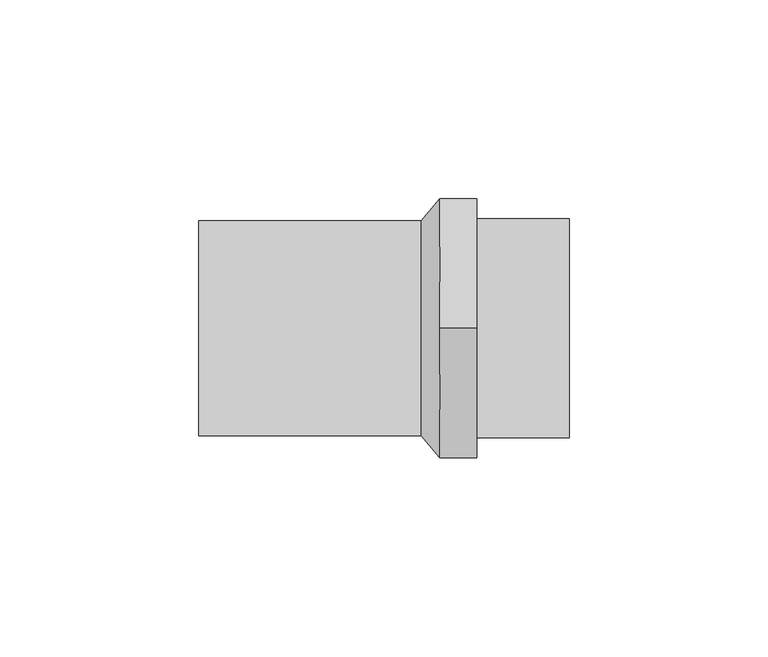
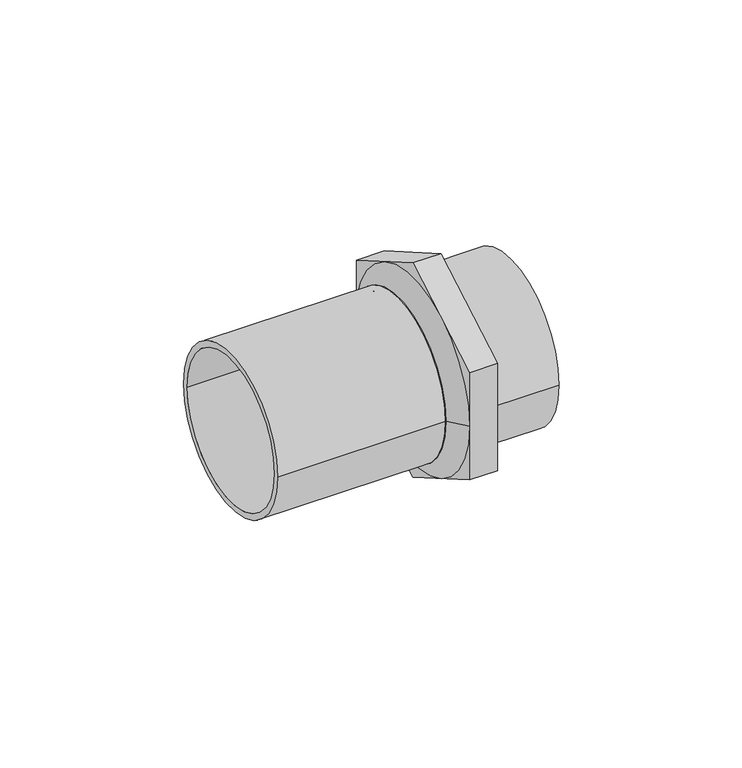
"""IFC4 building model written with IfcOpenShell, lengths in millimetres: pipe fitting geometry, VALTEC_VTi.906.I_Вставка с наружной резьбой нержавеющая сталь : VTi.906.I."""

from ifc_helpers import new_model, si_unit, point, frame, origin, origin_2d, place, context, project, spatial, polyline, circle_curve, trimmed, segment, composite_curve, outline, extrude, source, transform, mapped, element, save
from ifc_brep_helpers import plane_surface, revolved_surface, advanced_brep


def pipe_fitting_f4f82637(model_context):
    return source(origin(), model_context, "Body", "SolidModel", [
        extrude(outline(composite_curve([segment(trimmed(circle_curve(origin_2d(), 27.5), [point((-27.5, 0.0))], [point((27.5, 0.0))], False, "CARTESIAN"), True, "CONTINUOUS"), segment(trimmed(circle_curve(origin_2d(), 27.5), [point((27.5, 0.0))], [point((-27.5, 0.0))], False, "CARTESIAN"), True, "CONTINUOUS")], self_intersect=False), holes=[composite_curve([segment(trimmed(circle_curve(origin_2d(), 25.0), [point((-25.0, 0.0))], [point((25.0, 0.0))], True, "CARTESIAN"), True, "CONTINUOUS"), segment(trimmed(circle_curve(origin_2d(), 25.0), [point((25.0, 0.0))], [point((-25.0, 0.0))], True, "CARTESIAN"), True, "CONTINUOUS")], self_intersect=False)]), frame((69.75, 0.0, 0.0), z_axis=(1.0, 0.0, 0.0), x_axis=(0.0, 1.0, 0.0)), (0.0, 0.0, 1.0), 23.25),
        advanced_brep(
        [(60.45, -32.5, 0.0), (60.45, 32.5, 0.0), (55.8, -27.0, 0.0), (55.8, 27.0, 0.0)],
        [
            (0, 1, circle_curve(frame((60.45, 0.0, 0.0), z_axis=(1.0, 0.0, 0.0), x_axis=(0.0, -1.0, 0.0)), 32.5)),
            (1, 0, circle_curve(frame((60.45, 0.0, 0.0), z_axis=(1.0, 0.0, 0.0), x_axis=(0.0, 1.0, 0.0)), 32.5)),
            (2, 3, circle_curve(frame((55.8, 0.0, 0.0), z_axis=(-1.0, 0.0, 0.0), x_axis=(0.0, 1.0, 0.0)), 27.0)),
            (3, 2, circle_curve(frame((55.8, 0.0, 0.0), z_axis=(-1.0, 0.0, 0.0), x_axis=(0.0, -1.0, 0.0)), 27.0)),
            (3, 1),
            (0, 2),
        ],
        [
            plane_surface(frame((60.45, 0.0, 0.0), z_axis=(1.0, 0.0, 0.0), x_axis=(0.0, 0.0, -1.0))),
            plane_surface(frame((55.8, 0.0, 0.0), z_axis=(-1.0, 0.0, 0.0), x_axis=(0.0, 0.0, -1.0))),
            revolved_surface(polyline([(55.8, 26.99999999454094, 0.0), (60.45, 32.5, 0.0)]), (32.9727273, 0.0, 0.0), (1.0, 0.0, 0.0)),
            revolved_surface(polyline([(55.8, -26.99999999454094, 0.0), (60.45, -32.5, 0.0)]), (32.9727273, 0.0, 0.0), (1.0, 0.0, 0.0)),
        ],
        [
            (0, [[1, 2]]),
            (1, [[3, 4]]),
            (2, [[-4, 5, -1, 6]]),
            (3, [[-3, -6, -2, -5]]),
        ],
    ),
        extrude(outline(polyline([(0.0, 37.5277675), (32.5, 18.7638837), (32.5, -18.7638837), (0.0, -37.5277675), (-32.5, -18.7638837), (-32.5, 18.7638837), (0.0, 37.5277675)]), holes=[composite_curve([segment(trimmed(circle_curve(origin_2d(), 25.0), [point((-25.0, 0.0))], [point((25.0, 0.0))], True, "CARTESIAN"), True, "CONTINUOUS"), segment(trimmed(circle_curve(origin_2d(), 25.0), [point((25.0, 0.0))], [point((-25.0, 0.0))], True, "CARTESIAN"), True, "CONTINUOUS")], self_intersect=False)]), frame((60.45, 0.0, 0.0), z_axis=(1.0, 0.0, 0.0), x_axis=(0.0, 1.0, 0.0)), (0.0, 0.0, 1.0), 9.3),
        extrude(outline(composite_curve([segment(trimmed(circle_curve(origin_2d(), 27.0), [point((-27.0, 0.0))], [point((27.0, 0.0))], False, "CARTESIAN"), True, "CONTINUOUS"), segment(trimmed(circle_curve(origin_2d(), 27.0), [point((27.0, 0.0))], [point((-27.0, 0.0))], False, "CARTESIAN"), True, "CONTINUOUS")], self_intersect=False), holes=[composite_curve([segment(trimmed(circle_curve(origin_2d(), 25.0), [point((-25.0, 0.0))], [point((25.0, 0.0))], True, "CARTESIAN"), True, "CONTINUOUS"), segment(trimmed(circle_curve(origin_2d(), 25.0), [point((25.0, 0.0))], [point((-25.0, 0.0))], True, "CARTESIAN"), True, "CONTINUOUS")], self_intersect=False)]), frame((0.0, 0.0, 0.0), z_axis=(1.0, 0.0, 0.0), x_axis=(0.0, 1.0, 0.0)), (0.0, 0.0, 1.0), 55.8),
    ])


if __name__ == "__main__":
    model = new_model("IFC4")
    model_context = context("Model", 3, world=origin())
    ifc_project = project(units=[si_unit("LENGTHUNIT", "METRE", prefix="MILLI")], contexts=[model_context])
    site = spatial("IfcSite", under=ifc_project)
    building = spatial("IfcBuilding", under=site)
    placement = place(None, origin())
    pipe_fitting_shape = pipe_fitting_f4f82637(model_context)
    element("IfcPipeFitting", 1, ObjectType="VALTEC_VTi.906.I_Вставка с наружной резьбой нержавеющая сталь : VTi.906.I", at=placement, inside=building, context=model_context, shape_type="MappedRepresentation", body=[
        mapped(pipe_fitting_shape, transform((0.0, 0.0, 0.0), x_axis=(1.0, 0.0, 0.0), y_axis=(0.0, 1.0, 0.0), z_axis=(0.0, 0.0, 1.0))),
    ])
    save(model, "model.ifc")
